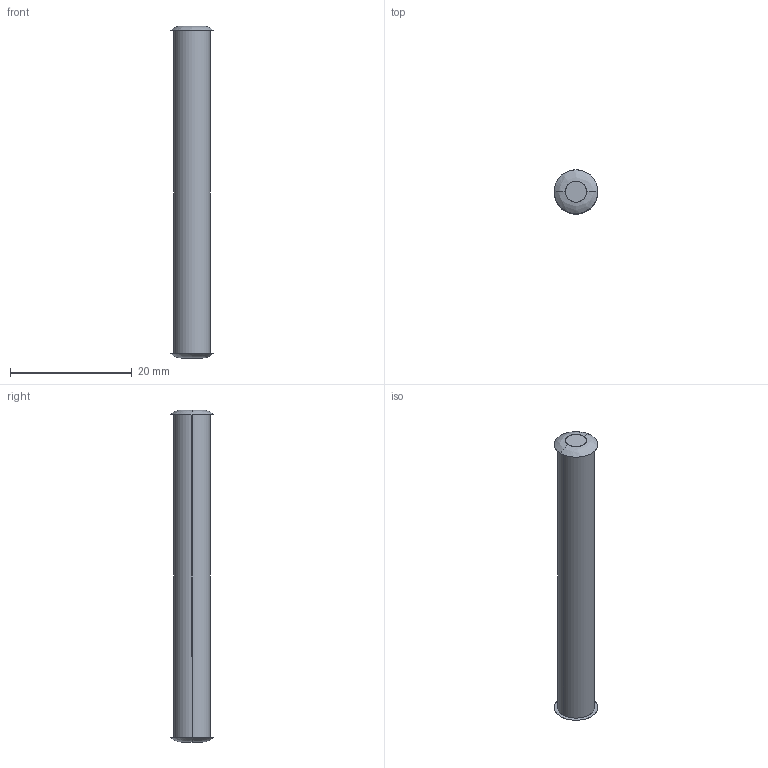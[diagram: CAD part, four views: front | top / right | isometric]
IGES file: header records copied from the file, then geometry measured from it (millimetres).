
Start section: SolidWorks IGES file using analytic representation for surfaces
Global section: file name: Z:\Mes documents\ATAO iges\Gamme CL\CL 428\428.030.00.IGS; native system: SolidWorks 2008; preprocessor: SolidWorks 2008; author: cbrechard; date: 110628.182900; units: millimetre
Bounding box: 7.2 x 7.2 x 54.6 mm (x, y, z)
Surface area: 1114.1 mm2 (no closed solid volume)
Topology: 0 solids, 0 shells, 10 faces, 216 edges, 216 vertices
Faces by surface type: bspline 8, revolution 2
